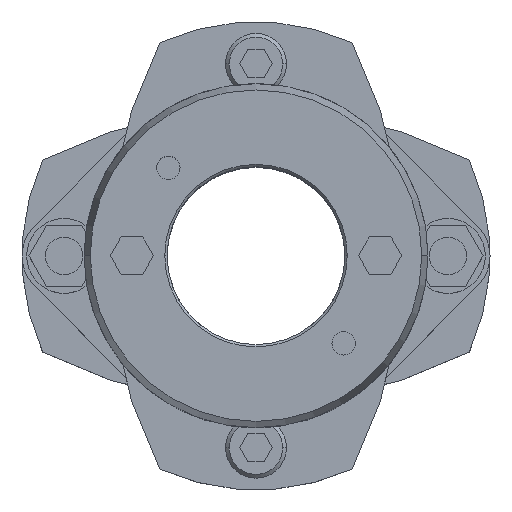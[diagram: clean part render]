
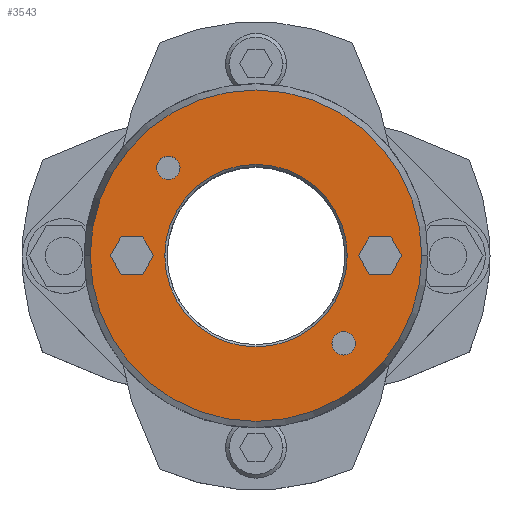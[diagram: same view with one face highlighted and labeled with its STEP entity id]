
A CAD part, top view. The second image highlights one B-rep face of the part: STEP entity #3543.
In plain terms, the highlighted planar face has unit normal (0, 0, 1).
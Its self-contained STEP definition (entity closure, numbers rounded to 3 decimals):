
#1505=CARTESIAN_POINT('',(-19.5,0.,42.0));
#1506=VERTEX_POINT('',#1505);
#1522=CARTESIAN_POINT('',(19.5,0.,42.0));
#1523=VERTEX_POINT('',#1522);
#1530=CARTESIAN_POINT('',(0.,0.,42.0));
#1531=DIRECTION('',(0.0,0.0,1.0));
#1532=DIRECTION('',(-1.0,0.0,0.0));
#1533=AXIS2_PLACEMENT_3D('',#1530,#1531,#1532);
#1534=CIRCLE('',#1533,19.5);
#1535=EDGE_CURVE('',#1523,#1506,#1534,.T.);
#1651=CARTESIAN_POINT('',(35.41,0.,42.0));
#1652=VERTEX_POINT('',#1651);
#1661=CARTESIAN_POINT('',(-35.41,0.,42.0));
#1662=VERTEX_POINT('',#1661);
#1663=CARTESIAN_POINT('',(0.,0.,42.0));
#1664=DIRECTION('',(0.0,0.0,-1.0));
#1665=DIRECTION('',(1.0,0.0,0.0));
#1666=AXIS2_PLACEMENT_3D('',#1663,#1664,#1665);
#1667=CIRCLE('',#1666,35.41);
#1668=EDGE_CURVE('',#1652,#1662,#1667,.T.);
#1837=CARTESIAN_POINT('',(-21.238,18.738,42.0));
#1838=VERTEX_POINT('',#1837);
#1854=CARTESIAN_POINT('',(-16.238,18.738,42.0));
#1855=VERTEX_POINT('',#1854);
#1862=CARTESIAN_POINT('',(-18.738,18.738,42.0));
#1863=DIRECTION('',(0.0,0.0,-1.0));
#1864=DIRECTION('',(-1.0,0.0,0.0));
#1865=AXIS2_PLACEMENT_3D('',#1862,#1863,#1864);
#1866=CIRCLE('',#1865,2.5);
#1867=EDGE_CURVE('',#1838,#1855,#1866,.T.);
#1879=CARTESIAN_POINT('',(16.238,-18.738,42.0));
#1880=VERTEX_POINT('',#1879);
#1896=CARTESIAN_POINT('',(21.238,-18.738,42.0));
#1897=VERTEX_POINT('',#1896);
#1904=CARTESIAN_POINT('',(18.738,-18.738,42.0));
#1905=DIRECTION('',(0.0,0.0,-1.0));
#1906=DIRECTION('',(-1.0,0.0,0.0));
#1907=AXIS2_PLACEMENT_3D('',#1904,#1905,#1906);
#1908=CIRCLE('',#1907,2.5);
#1909=EDGE_CURVE('',#1880,#1897,#1908,.T.);
#2669=CARTESIAN_POINT('',(21.881,0.,42.0));
#2670=VERTEX_POINT('',#2669);
#2677=CARTESIAN_POINT('',(24.191,-4.,42.0));
#2678=VERTEX_POINT('',#2677);
#2679=CARTESIAN_POINT('',(24.191,-4.,42.0));
#2680=DIRECTION('',(-0.5,0.866,0.0));
#2681=VECTOR('',#2680,4.619);
#2682=LINE('',#2679,#2681);
#2683=EDGE_CURVE('',#2678,#2670,#2682,.T.);
#2707=CARTESIAN_POINT('',(24.191,4.,42.0));
#2708=VERTEX_POINT('',#2707);
#2715=CARTESIAN_POINT('',(21.881,0.,42.0));
#2716=DIRECTION('',(0.5,0.866,0.0));
#2717=VECTOR('',#2716,4.619);
#2718=LINE('',#2715,#2717);
#2719=EDGE_CURVE('',#2670,#2708,#2718,.T.);
#2738=CARTESIAN_POINT('',(28.809,4.,42.0));
#2739=VERTEX_POINT('',#2738);
#2746=CARTESIAN_POINT('',(24.191,4.,42.0));
#2747=DIRECTION('',(1.0,0.0,0.0));
#2748=VECTOR('',#2747,4.619);
#2749=LINE('',#2746,#2748);
#2750=EDGE_CURVE('',#2708,#2739,#2749,.T.);
#2769=CARTESIAN_POINT('',(31.119,0.,42.0));
#2770=VERTEX_POINT('',#2769);
#2777=CARTESIAN_POINT('',(28.809,4.,42.0));
#2778=DIRECTION('',(0.5,-0.866,0.0));
#2779=VECTOR('',#2778,4.619);
#2780=LINE('',#2777,#2779);
#2781=EDGE_CURVE('',#2739,#2770,#2780,.T.);
#2800=CARTESIAN_POINT('',(28.809,-4.,42.0));
#2801=VERTEX_POINT('',#2800);
#2808=CARTESIAN_POINT('',(31.119,0.,42.0));
#2809=DIRECTION('',(-0.5,-0.866,0.0));
#2810=VECTOR('',#2809,4.619);
#2811=LINE('',#2808,#2810);
#2812=EDGE_CURVE('',#2770,#2801,#2811,.T.);
#2830=CARTESIAN_POINT('',(28.809,-4.,42.0));
#2831=DIRECTION('',(-1.0,0.0,0.0));
#2832=VECTOR('',#2831,4.619);
#2833=LINE('',#2830,#2832);
#2834=EDGE_CURVE('',#2801,#2678,#2833,.T.);
#2869=CARTESIAN_POINT('',(-31.119,0.,42.0));
#2870=VERTEX_POINT('',#2869);
#2877=CARTESIAN_POINT('',(-28.809,-4.,42.0));
#2878=VERTEX_POINT('',#2877);
#2879=CARTESIAN_POINT('',(-28.809,-4.,42.0));
#2880=DIRECTION('',(-0.5,0.866,0.0));
#2881=VECTOR('',#2880,4.619);
#2882=LINE('',#2879,#2881);
#2883=EDGE_CURVE('',#2878,#2870,#2882,.T.);
#2907=CARTESIAN_POINT('',(-28.809,4.,42.0));
#2908=VERTEX_POINT('',#2907);
#2915=CARTESIAN_POINT('',(-31.119,0.,42.0));
#2916=DIRECTION('',(0.5,0.866,0.0));
#2917=VECTOR('',#2916,4.619);
#2918=LINE('',#2915,#2917);
#2919=EDGE_CURVE('',#2870,#2908,#2918,.T.);
#2938=CARTESIAN_POINT('',(-24.191,4.,42.0));
#2939=VERTEX_POINT('',#2938);
#2946=CARTESIAN_POINT('',(-28.809,4.,42.0));
#2947=DIRECTION('',(1.0,0.0,0.0));
#2948=VECTOR('',#2947,4.619);
#2949=LINE('',#2946,#2948);
#2950=EDGE_CURVE('',#2908,#2939,#2949,.T.);
#2969=CARTESIAN_POINT('',(-21.881,0.,42.0));
#2970=VERTEX_POINT('',#2969);
#2977=CARTESIAN_POINT('',(-24.191,4.,42.0));
#2978=DIRECTION('',(0.5,-0.866,0.0));
#2979=VECTOR('',#2978,4.619);
#2980=LINE('',#2977,#2979);
#2981=EDGE_CURVE('',#2939,#2970,#2980,.T.);
#3000=CARTESIAN_POINT('',(-24.191,-4.,42.0));
#3001=VERTEX_POINT('',#3000);
#3008=CARTESIAN_POINT('',(-21.881,0.,42.0));
#3009=DIRECTION('',(-0.5,-0.866,0.0));
#3010=VECTOR('',#3009,4.619);
#3011=LINE('',#3008,#3010);
#3012=EDGE_CURVE('',#2970,#3001,#3011,.T.);
#3030=CARTESIAN_POINT('',(-24.191,-4.,42.0));
#3031=DIRECTION('',(-1.0,0.0,0.0));
#3032=VECTOR('',#3031,4.619);
#3033=LINE('',#3030,#3032);
#3034=EDGE_CURVE('',#3001,#2878,#3033,.T.);
#3060=CARTESIAN_POINT('',(18.738,-18.738,42.0));
#3061=DIRECTION('',(0.0,0.0,-1.0));
#3062=DIRECTION('',(-1.0,0.0,0.0));
#3063=AXIS2_PLACEMENT_3D('',#3060,#3061,#3062);
#3064=CIRCLE('',#3063,2.5);
#3065=EDGE_CURVE('',#1897,#1880,#3064,.T.);
#3094=CARTESIAN_POINT('',(-18.738,18.738,42.0));
#3095=DIRECTION('',(0.0,0.0,-1.0));
#3096=DIRECTION('',(-1.0,0.0,0.0));
#3097=AXIS2_PLACEMENT_3D('',#3094,#3095,#3096);
#3098=CIRCLE('',#3097,2.5);
#3099=EDGE_CURVE('',#1855,#1838,#3098,.T.);
#3490=CARTESIAN_POINT('',(0.,0.,42.0));
#3491=DIRECTION('',(0.0,0.0,-1.0));
#3492=DIRECTION('',(1.0,0.0,0.0));
#3493=AXIS2_PLACEMENT_3D('',#3490,#3491,#3492);
#3494=CIRCLE('',#3493,35.41);
#3495=EDGE_CURVE('',#1662,#1652,#3494,.T.);
#3500=CARTESIAN_POINT('',(-3.341,0.,42.0));
#3501=DIRECTION('',(0.0,0.0,1.0));
#3502=DIRECTION('',(-1.0,0.0,0.0));
#3503=AXIS2_PLACEMENT_3D('',#3500,#3501,#3502);
#3504=PLANE('',#3503);
#3505=ORIENTED_EDGE('',*,*,#3495,.F.);
#3506=ORIENTED_EDGE('',*,*,#1668,.F.);
#3507=EDGE_LOOP('',(#3505,#3506));
#3508=FACE_OUTER_BOUND('',#3507,.T.);
#3509=ORIENTED_EDGE('',*,*,#2683,.T.);
#3510=ORIENTED_EDGE('',*,*,#2719,.T.);
#3511=ORIENTED_EDGE('',*,*,#2750,.T.);
#3512=ORIENTED_EDGE('',*,*,#2781,.T.);
#3513=ORIENTED_EDGE('',*,*,#2812,.T.);
#3514=ORIENTED_EDGE('',*,*,#2834,.T.);
#3515=EDGE_LOOP('',(#3509,#3510,#3511,#3512,#3513,#3514));
#3516=FACE_BOUND('',#3515,.T.);
#3517=ORIENTED_EDGE('',*,*,#2883,.T.);
#3518=ORIENTED_EDGE('',*,*,#2919,.T.);
#3519=ORIENTED_EDGE('',*,*,#2950,.T.);
#3520=ORIENTED_EDGE('',*,*,#2981,.T.);
#3521=ORIENTED_EDGE('',*,*,#3012,.T.);
#3522=ORIENTED_EDGE('',*,*,#3034,.T.);
#3523=EDGE_LOOP('',(#3517,#3518,#3519,#3520,#3521,#3522));
#3524=FACE_BOUND('',#3523,.T.);
#3525=ORIENTED_EDGE('',*,*,#1909,.T.);
#3526=ORIENTED_EDGE('',*,*,#3065,.T.);
#3527=EDGE_LOOP('',(#3525,#3526));
#3528=FACE_BOUND('',#3527,.T.);
#3529=ORIENTED_EDGE('',*,*,#1867,.T.);
#3530=ORIENTED_EDGE('',*,*,#3099,.T.);
#3531=EDGE_LOOP('',(#3529,#3530));
#3532=FACE_BOUND('',#3531,.T.);
#3533=ORIENTED_EDGE('',*,*,#1535,.F.);
#3534=CARTESIAN_POINT('',(0.,0.,42.0));
#3535=DIRECTION('',(0.0,0.0,1.0));
#3536=DIRECTION('',(-1.0,0.0,0.0));
#3537=AXIS2_PLACEMENT_3D('',#3534,#3535,#3536);
#3538=CIRCLE('',#3537,19.5);
#3539=EDGE_CURVE('',#1506,#1523,#3538,.T.);
#3540=ORIENTED_EDGE('',*,*,#3539,.F.);
#3541=EDGE_LOOP('',(#3533,#3540));
#3542=FACE_BOUND('',#3541,.T.);
#3543=ADVANCED_FACE('',(#3508,#3516,#3524,#3528,#3532,#3542),#3504,.T.);
